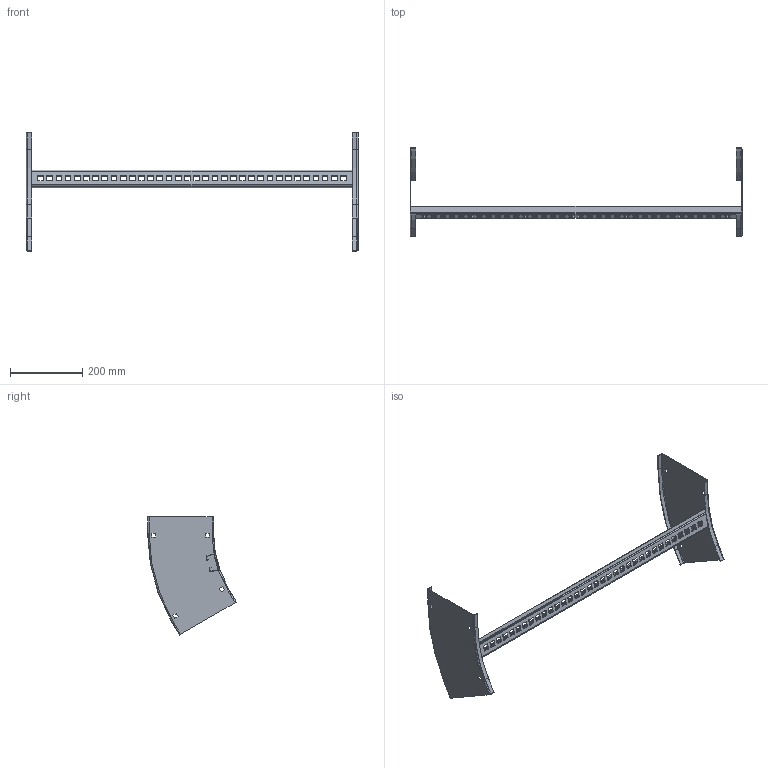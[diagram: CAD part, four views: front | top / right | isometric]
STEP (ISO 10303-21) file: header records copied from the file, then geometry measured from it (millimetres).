
FILE_DESCRIPTION((''),'2;1');
FILE_NAME('AUF736LVO3012_ASM','2010-02-01T',('erouzier'),(''),'PRO/ENGINEER BY PARAMETRIC TECHNOLOGY CORPORATION, 2008510','PRO/ENGINEER BY PARAMETRIC TECHNOLOGY CORPORATION, 2008510','');
FILE_SCHEMA(('CONFIG_CONTROL_DESIGN'));
Length unit declared in the file: inch
Products named in the file (3): CDS001419_7_30_12; CDS002159L36-P; AUF736LVO3012_ASM
Assembly tree (3 placements, depth 2):
  AUF736LVO3012_ASM
    CDS001419_7_30_12  x2
    CDS002159L36-P
Bounding box: 918.51 x 245.48 x 326.56 mm (x, y, z)
Volume: 368400.1 mm3; surface area: 450294.9 mm2
Topology: 3 solids, 3 shells, 418 faces, 1172 edges, 760 vertices
Faces by surface type: plane 239, cylinder 171, torus 8
Entity records: 12080 total; most frequent: DIRECTION 2090, CARTESIAN_POINT 2082, ORIENTED_EDGE 2072, EDGE_CURVE 1036, VECTOR 714, LINE 714, AXIS2_PLACEMENT_3D 688, VERTEX_POINT 680
